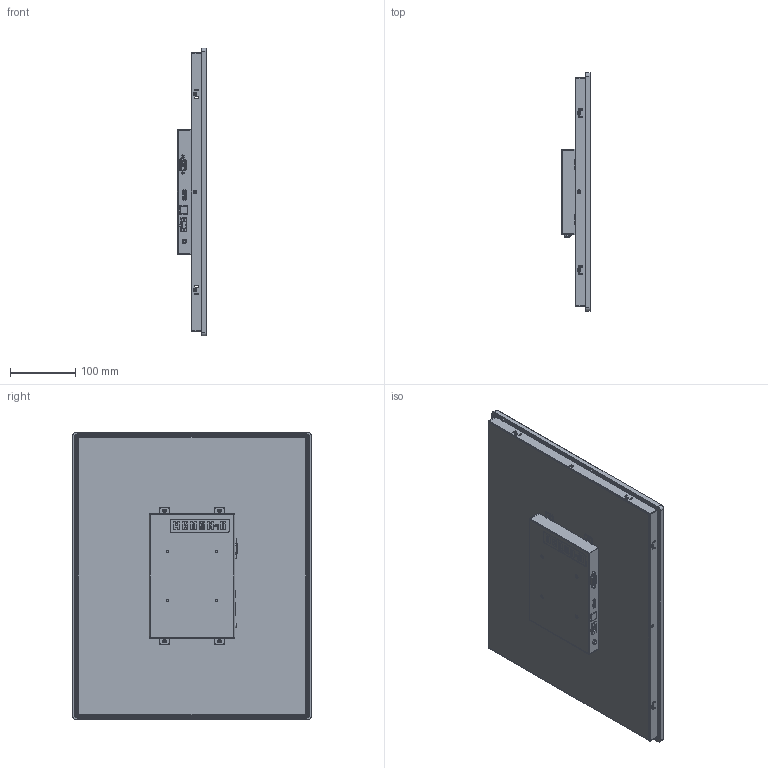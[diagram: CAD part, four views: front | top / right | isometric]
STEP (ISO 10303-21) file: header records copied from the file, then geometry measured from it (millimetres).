
FILE_DESCRIPTION((''),'2;1');
FILE_NAME('FPM-1900D-20241226','2025-08-01T19:32:29',('anthony'),(''),'CREO PARAMETRIC BY PTC INC, 2024063','CREO PARAMETRIC BY PTC INC, 2024063','');
FILE_SCHEMA(('CONFIG_CONTROL_DESIGN','SHAPE_APPEARANCE_LAYERS_GROUPS'));
Products named in the file (1): FPM-1900D-20241226
Bounding box: 45 x 363.95 x 439.95 mm (x, y, z)
Surface area: 830313.1 mm2
Topology: 2 solids, 13 shells, 2304 faces, 6501 edges, 4262 vertices
Faces by surface type: plane 1629, cylinder 525, cone 70, torus 44, bspline 32, sphere 4
Entity records: 78859 total; most frequent: CARTESIAN_POINT 17530, ORIENTED_EDGE 12536, DIRECTION 11556, EDGE_CURVE 6498, VECTOR 4976, LINE 4976, VERTEX_POINT 4262, AXIS2_PLACEMENT_3D 3290
